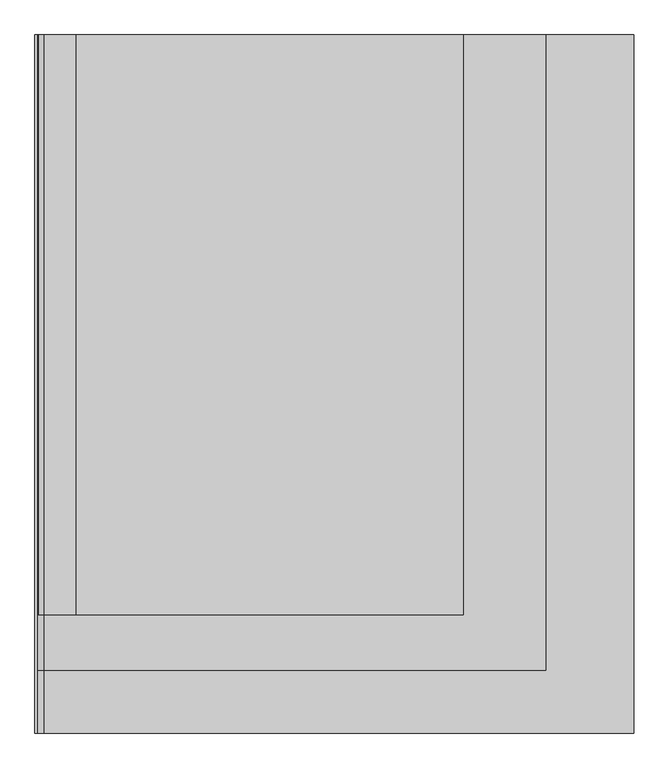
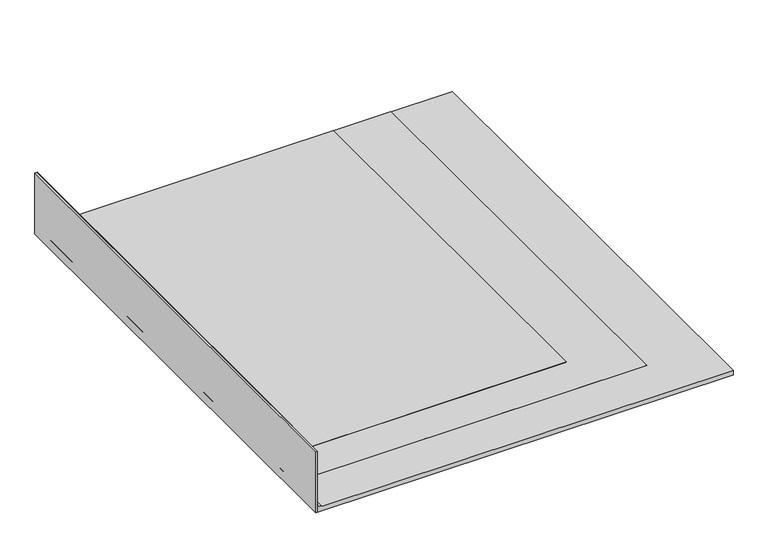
"""IFC4 building model written with IfcOpenShell, lengths in millimetres: proxy geometry, IMPER:IMPER:433934 : IMPER:IMPER:433934."""

import ifcopenshell
import ifcopenshell.guid

model = None  # the IFC model being written
_history = None  # IfcOwnerHistory: only IFC2X3 demands one
_inside = {}  # id of a spatial element -> (the spatial element, [elements in it])
_under = {}  # id of a project, library or spatial element -> (it, [spatial elements below it])
_declared = {}  # id of a project -> (the project, [libraries it declares])
_typed = {}  # id of a type object -> (the type object, [elements of that type])
_made_of = {}  # id of a material, layer set ... -> (it, [elements and type objects made of it])


def new_model(schema):
    """Start an empty IFC model of exactly this schema.

    Asked for "IFC4X3", IfcOpenShell would pick the latest addendum, in which some entities
    have other attributes; the version numbers below select the first issue.
    IFC2X3 requires an IfcOwnerHistory on every rooted entity: one is made here for all.
    """
    global model, _history
    if schema == "IFC4X3":
        model = ifcopenshell.file(schema_version=(4, 3, 0, 0))
    else:
        model = ifcopenshell.file(schema=schema)
    _inside.clear()
    _under.clear()
    _declared.clear()
    _typed.clear()
    _made_of.clear()
    _history = None
    if model.schema == "IFC2X3":
        org = make("IfcOrganization", Name="unknown")
        user = make(
            "IfcPersonAndOrganization",
            ThePerson=make("IfcPerson", FamilyName="unknown"),
            TheOrganization=org,
        )
        app = make(
            "IfcApplication",
            ApplicationDeveloper=org,
            Version="unknown",
            ApplicationFullName="unknown",
            ApplicationIdentifier="unknown",
        )
        _history = make(
            "IfcOwnerHistory",
            OwningUser=user,
            OwningApplication=app,
            ChangeAction="ADDED",
            CreationDate=0,
        )
    return model


def make(cls, **values):
    """One entity of the class cls with the attributes given. An attribute that is None is left unset."""
    return model.create_entity(
        cls, **{name: value for name, value in values.items() if value is not None}
    )


def rooted(cls, **values):
    """An entity with a GlobalId (a new one), such as an element, a storey or a relation."""
    return make(cls, GlobalId=ifcopenshell.guid.new(), OwnerHistory=_history, **values)


def si_unit(unit_type, name, prefix=None):
    """IfcSIUnit, for example si_unit("LENGTHUNIT", "METRE", prefix="MILLI")."""
    return make("IfcSIUnit", UnitType=unit_type, Prefix=prefix, Name=name)


def assignment(units):
    """IfcUnitAssignment: the units of a project."""
    return None if units is None else make("IfcUnitAssignment", Units=units)


def point(xyz):
    """IfcCartesianPoint."""
    return None if xyz is None else make("IfcCartesianPoint", Coordinates=xyz)


def direction(xyz):
    """IfcDirection."""
    return None if xyz is None else make("IfcDirection", DirectionRatios=xyz)


def frame(location, z_axis=None, x_axis=None):
    """IfcAxis2Placement3D, a coordinate frame: its origin and axes. An axis left out is left unset."""
    return make(
        "IfcAxis2Placement3D",
        Location=point(location),
        Axis=direction(z_axis),
        RefDirection=direction(x_axis),
    )


def frame_2d(location, x_axis=None):
    """IfcAxis2Placement2D, a coordinate frame in the plane: its origin and x axis."""
    return make(
        "IfcAxis2Placement2D", Location=point(location), RefDirection=direction(x_axis)
    )


def origin():
    """The frame at (0, 0, 0) with its axes left unset."""
    return frame((0.0, 0.0, 0.0))


def place(relative_to, where):
    """IfcLocalPlacement: puts the frame where relative to a parent placement (None: the world)."""
    return make(
        "IfcLocalPlacement", PlacementRelTo=relative_to, RelativePlacement=where
    )


def context(
    kind, dimensions, precision=None, world=None, true_north=None, identifier=None
):
    """IfcGeometricRepresentationContext, for example the 3D "Model" context."""
    return make(
        "IfcGeometricRepresentationContext",
        ContextIdentifier=identifier,
        ContextType=kind,
        CoordinateSpaceDimension=dimensions,
        Precision=precision,
        WorldCoordinateSystem=world,
        TrueNorth=true_north,
    )


def project(units=None, contexts=None):
    """IfcProject with its units and contexts."""
    return rooted(
        "IfcProject",
        Name="project",
        RepresentationContexts=contexts,
        UnitsInContext=assignment(units),
    )


def spatial(cls, under=None, at=None, **own):
    """A site, building, storey or space (cls), placed at a placement, below another one or the project."""
    s = rooted(cls, ObjectPlacement=at, **own)
    if under is not None:
        _under.setdefault(under.id(), (under, []))[1].append(s)
    return s


def polyline(points):
    """IfcPolyline through the points."""
    return make("IfcPolyline", Points=[point(p) for p in points])


def circle_curve(where, radius):
    """IfcCircle in the frame where."""
    return make("IfcCircle", Position=where, Radius=radius)


def trimmed(basis, trim1, trim2, sense, master):
    """IfcTrimmedCurve: the piece of a basis curve between two trims."""
    return make(
        "IfcTrimmedCurve",
        BasisCurve=basis,
        Trim1=trim1,
        Trim2=trim2,
        SenseAgreement=sense,
        MasterRepresentation=master,
    )


def segment(curve, same_sense, transition):
    """IfcCompositeCurveSegment."""
    return make(
        "IfcCompositeCurveSegment",
        Transition=transition,
        SameSense=same_sense,
        ParentCurve=curve,
    )


def composite_curve(segments, self_intersect=None):
    """IfcCompositeCurve: segments joined end to end."""
    return make("IfcCompositeCurve", Segments=segments, SelfIntersect=self_intersect)


def outline(outer, holes=None, kind="AREA"):
    """IfcArbitraryClosedProfileDef: a profile drawn as a closed curve; with holes, ...WithVoids."""
    if holes is None:
        return make("IfcArbitraryClosedProfileDef", ProfileType=kind, OuterCurve=outer)
    return make(
        "IfcArbitraryProfileDefWithVoids",
        ProfileType=kind,
        OuterCurve=outer,
        InnerCurves=holes,
    )


def extrude(swept, where, along, depth):
    """IfcExtrudedAreaSolid: the profile swept, set in the frame where, extruded along a direction by depth."""
    return make(
        "IfcExtrudedAreaSolid",
        SweptArea=swept,
        Position=where,
        ExtrudedDirection=direction(along),
        Depth=depth,
    )


def shape(context_of_items, identifier, shape_type, items):
    """IfcShapeRepresentation: the items that make up one representation, for example the "Body"."""
    return make(
        "IfcShapeRepresentation",
        ContextOfItems=context_of_items,
        RepresentationIdentifier=identifier,
        RepresentationType=shape_type,
        Items=items,
    )


def source(mapping_origin, context_of_items, identifier, shape_type, items):
    """IfcRepresentationMap: a shape defined once, which mapped items show again and again."""
    return make(
        "IfcRepresentationMap",
        MappingOrigin=mapping_origin,
        MappedRepresentation=shape(context_of_items, identifier, shape_type, items),
    )


def transform(
    local_origin,
    x_axis=None,
    y_axis=None,
    z_axis=None,
    scale=None,
    scale2=None,
    scale3=None,
    uniform=True,
):
    """IfcCartesianTransformationOperator3D, or its non-uniform kind. x_axis, y_axis, z_axis: its Axis1, 2, 3."""
    if uniform:
        return make(
            "IfcCartesianTransformationOperator3D",
            Axis1=direction(x_axis),
            Axis2=direction(y_axis),
            LocalOrigin=point(local_origin),
            Scale=scale,
            Axis3=direction(z_axis),
        )
    return make(
        "IfcCartesianTransformationOperator3DnonUniform",
        Axis1=direction(x_axis),
        Axis2=direction(y_axis),
        LocalOrigin=point(local_origin),
        Scale=scale,
        Axis3=direction(z_axis),
        Scale2=scale2,
        Scale3=scale3,
    )


def mapped(mapping_source, mapping_target):
    """IfcMappedItem: shows the shape of a source again, moved by a transform."""
    return make(
        "IfcMappedItem", MappingSource=mapping_source, MappingTarget=mapping_target
    )


def made_of(thing, what):
    """Note that an element or type object is made of a material, layer set ...; save() writes the relation."""
    if what is not None:
        _made_of.setdefault(what.id(), (what, []))[1].append(thing)
    return thing


def element(
    cls,
    number,
    at=None,
    inside=None,
    cuts=None,
    type_object=None,
    material=None,
    context=None,
    identifier="Body",
    shape_type=None,
    held_by="IfcProductDefinitionShape",
    body=None,
    shapes=None,
    **own,
):
    """One element of the class cls, such as IfcWall. Its Tag is "e" and its number.

    at: its placement. inside: the storey or other place that contains it. cuts: it is an
    opening in that element (IfcRelVoidsElement). A single representation is given by context,
    identifier, shape_type and body (its items); several are given by shapes. held_by: the class
    of the entity that holds the representations. save() writes the other relations.
    """
    e = rooted(cls, Tag="e%d" % number, ObjectPlacement=at, **own)
    if body is not None:
        shapes = [shape(context, identifier, shape_type, body)]
    if shapes is not None:
        e.Representation = make(held_by, Representations=shapes)
    if inside is not None:
        _inside.setdefault(inside.id(), (inside, []))[1].append(e)
    if cuts is not None:
        rooted(
            "IfcRelVoidsElement", RelatingBuildingElement=cuts, RelatedOpeningElement=e
        )
    if type_object is not None:
        _typed.setdefault(type_object.id(), (type_object, []))[1].append(e)
    return made_of(e, material)


def aggregate(whole, parts):
    """IfcRelAggregates: a whole, such as a stair, and the parts it consists of."""
    return rooted("IfcRelAggregates", RelatingObject=whole, RelatedObjects=parts)


def save(model, path):
    """Write the relations noted so far, then the file.

    IfcRelAggregates (storeys below a building ...), IfcRelContainedInSpatialStructure (elements
    in a storey), IfcRelDefinesByType, IfcRelAssociatesMaterial and IfcRelDeclares: one each for
    every whole, place, type object, material and project.
    """
    for whole, parts in _under.values():
        aggregate(whole, parts)
    for where, things in _inside.values():
        rooted(
            "IfcRelContainedInSpatialStructure",
            RelatedElements=things,
            RelatingStructure=where,
        )
    for kind, things in _typed.values():
        rooted("IfcRelDefinesByType", RelatedObjects=things, RelatingType=kind)
    for what, things in _made_of.values():
        rooted("IfcRelAssociatesMaterial", RelatedObjects=things, RelatingMaterial=what)
    for by, libraries in _declared.values():
        rooted("IfcRelDeclares", RelatingContext=by, RelatedDefinitions=libraries)
    model.write(path)


def generic_models_ff562c81(model_context):
    return source(origin(), model_context, "Body", "SweptSolid", [
        extrude(outline(polyline([(-351.9704105, 145.8700195), (-341.9704105, 145.8700195), (-341.9704105, -2854.1299805), (-351.9704105, -2854.1299805), (-351.9704105, 145.8700195)])), frame((0.0, 0.0, -2.523798), z_axis=(0.0, 0.0, 1.0), x_axis=(1.0, 0.0, 0.0)), (0.0, 0.0, 1.0), 400.0256685),
        extrude(outline(composite_curve([segment(polyline([(-311.9704105, 27.476202), (2221.8598581, 27.476202), (2221.8598581, -2.523798), (-341.9704105, -2.523798), (-341.9704105, 57.476202)]), True, "CONTINUOUS"), segment(trimmed(circle_curve(frame_2d((-311.9704105, 57.476202)), 30.0), [point((-341.9704105, 57.476202))], [point((-311.9704105, 27.476202))], True, "CARTESIAN"), True, "CONTINUOUS")], self_intersect=False)), frame((0.0, 145.8700195, 0.0), z_axis=(0.0, -1.0, 0.0), x_axis=(1.0, 0.0, 0.0)), (0.0, 0.0, 1.0), 3000.0),
        extrude(outline(composite_curve([segment(polyline([(56.6663512, -340.9591004), (397.5018705, -340.9591004), (397.5018705, -341.9704105), (57.476202, -341.9704105)]), True, "CONTINUOUS"), segment(trimmed(circle_curve(frame_2d((57.476202, -311.9704105)), 30.0), [point((57.476202, -341.9704105))], [point((27.476202, -311.9704105))], False, "CARTESIAN"), True, "CONTINUOUS"), segment(polyline([(27.476202, -311.9704105), (27.476202, 1843.8528814), (28.5018705, 1843.8528814), (28.5018705, -313.1902924)]), True, "CONTINUOUS"), segment(trimmed(circle_curve(frame_2d((57.476202, -311.9704105)), 29.0), [point((28.5018705, -313.1902924))], [point((56.6663512, -340.9591004))], True, "CARTESIAN"), True, "CONTINUOUS")], self_intersect=False)), frame((0.0, -2584.6706464, 0.0), z_axis=(0.0, 1.0, 0.0), x_axis=(0.0, 0.0, 1.0)), (0.0, 0.0, 1.0), 2730.5406659),
        extrude(outline(composite_curve([segment(polyline([(397.5018705, -338.9591004), (397.5018705, -340.9591004), (170.8079879, -340.9591004)]), True, "CONTINUOUS"), segment(trimmed(circle_curve(frame_2d((170.8079879, -331.9879323)), 8.9711681), [point((170.8079879, -340.9591004))], [point((169.4088257, -340.8493206))], False, "CARTESIAN"), True, "CONTINUOUS"), segment(trimmed(circle_curve(frame_2d((177.2575148, -313.1600928)), 28.7801191), [point((169.4088257, -340.8493206))], [point((164.5018705, -338.9591004))], False, "CARTESIAN"), True, "CONTINUOUS"), segment(polyline([(164.5018705, -338.9591004), (56.6947816, -338.9591004)]), True, "CONTINUOUS"), segment(trimmed(circle_curve(frame_2d((57.476202, -311.9704105)), 27.0), [point((56.6947816, -338.9591004))], [point((30.5018705, -313.1474568))], False, "CARTESIAN"), True, "CONTINUOUS"), segment(polyline([(30.5018705, -313.1474568), (30.5018705, -176.9591004), (32.5018705, -176.9591004), (32.5018705, -313.1030023)]), True, "CONTINUOUS"), segment(trimmed(circle_curve(frame_2d((57.476202, -311.9704105)), 25.0), [point((32.5018705, -313.1030023))], [point((56.7242861, -336.9591004))], True, "CARTESIAN"), True, "CONTINUOUS"), segment(polyline([(56.7242861, -336.9591004), (161.7242861, -336.9591004)]), True, "CONTINUOUS"), segment(trimmed(circle_curve(frame_2d((162.203873, -349.4059369)), 12.4560725), [point((161.7242861, -336.9591004))], [point((167.7205329, -338.2381168))], False, "CARTESIAN"), True, "CONTINUOUS"), segment(trimmed(circle_curve(frame_2d((170.8079879, -331.9879323)), 6.9711681), [point((167.7205329, -338.2381168))], [point((170.8079879, -338.9591004))], True, "CARTESIAN"), True, "CONTINUOUS"), segment(polyline([(170.8079879, -338.9591004), (397.5018705, -338.9591004)]), True, "CONTINUOUS")], self_intersect=False)), frame((0.0, -2345.5359843, 0.0), z_axis=(0.0, 1.0, 0.0), x_axis=(0.0, 0.0, 1.0)), (0.0, 0.0, 1.0), 2491.4060038),
        extrude(outline(composite_curve([segment(polyline([(28.5018705, -313.1902924), (28.5018705, 1488.0295895), (30.5018705, 1488.0295895), (30.5018705, -313.1474568)]), True, "CONTINUOUS"), segment(trimmed(circle_curve(frame_2d((57.476202, -311.9704105)), 27.0), [point((30.5018705, -313.1474568))], [point((56.6947816, -338.9591004))], True, "CARTESIAN"), True, "CONTINUOUS"), segment(polyline([(56.6947816, -338.9591004), (164.5018705, -338.9591004), (166.5018705, -340.9591004), (56.6663512, -340.9591004)]), True, "CONTINUOUS"), segment(trimmed(circle_curve(frame_2d((57.476202, -311.9704105)), 29.0), [point((56.6663512, -340.9591004))], [point((28.5018705, -313.1902924))], False, "CARTESIAN"), True, "CONTINUOUS")], self_intersect=False)), frame((0.0, -2345.5359843, 0.0), z_axis=(0.0, 1.0, 0.0), x_axis=(0.0, 0.0, 1.0)), (0.0, 0.0, 1.0), 2491.4060038),
    ])


if __name__ == "__main__":
    model = new_model("IFC4")
    model_context = context("Model", 3, world=origin())
    ifc_project = project(units=[si_unit("LENGTHUNIT", "METRE", prefix="MILLI")], contexts=[model_context])
    site = spatial("IfcSite", under=ifc_project)
    building = spatial("IfcBuilding", under=site)
    placement = place(None, origin())
    generic_models_shape = generic_models_ff562c81(model_context)
    element("IfcBuildingElementProxy", 1, Name="IMPER:IMPER:433934 : IMPER:IMPER:433934", ObjectType="IMPER:IMPER:433934 : IMPER:IMPER:433934", at=placement, inside=building, context=model_context, shape_type="MappedRepresentation", body=[
        mapped(generic_models_shape, transform((0.0, 0.0, 0.0), x_axis=(1.0, 0.0, 0.0), y_axis=(0.0, 1.0, 0.0), z_axis=(0.0, 0.0, 1.0))),
    ])
    save(model, "model.ifc")
